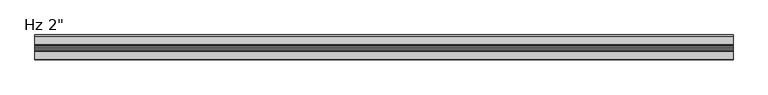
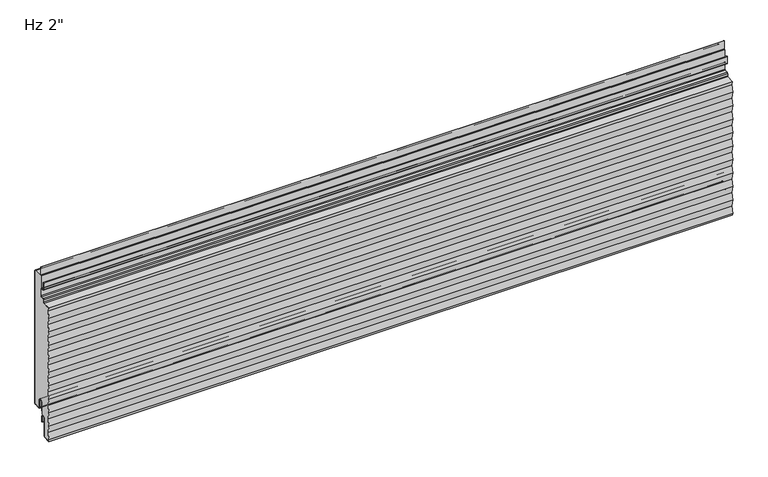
"""IFC4 building model written with IfcOpenShell, lengths in millimetres: plate geometry."""

from ifc_helpers import new_model, si_unit, point, frame, frame_2d, origin, place, context, project, spatial, polyline, circle_curve, ellipse_curve, trimmed, segment, composite_curve, outline, extrude, source, transform, mapped, element, save
from ifc_brep_helpers import plane_surface, cylinder_surface, revolved_surface, extruded_surface, advanced_brep


def plate_f94031e7(model_context):
    return source(origin(), model_context, "Body", "SolidModel", [
        extrude(outline(composite_curve([segment(polyline([(-22.8125, 259.7620957), (-22.8125, 303.00625), (-2.38125, 303.00625)]), True, "CONTINUOUS"), segment(trimmed(circle_curve(frame_2d((-2.38125, 301.625)), 1.38125), [point((-2.38125, 303.00625))], [point((-1.0, 301.625))], False, "CARTESIAN"), True, "CONTINUOUS"), segment(polyline([(-1.0, 301.625), (-1.0, 3.175)]), True, "CONTINUOUS"), segment(trimmed(circle_curve(frame_2d((-2.38125, 3.175)), 1.38125), [point((-1.0, 3.175))], [point((-2.38125, 1.79375))], False, "CARTESIAN"), True, "CONTINUOUS"), segment(polyline([(-2.38125, 1.79375), (-15.08125, 1.79375)]), True, "CONTINUOUS"), segment(trimmed(circle_curve(frame_2d((-15.08125, 3.175)), 1.38125), [point((-15.08125, 1.79375))], [point((-16.4625, 3.175))], False, "CARTESIAN"), True, "CONTINUOUS"), segment(polyline([(-16.4625, 3.175), (-16.4625, 19.05)]), True, "CONTINUOUS"), segment(trimmed(circle_curve(frame_2d((-21.43125, 19.05)), 4.96875), [point((-16.4625, 19.05))], [point((-26.4, 19.05))], True, "CARTESIAN"), True, "CONTINUOUS"), segment(polyline([(-26.4, 19.05), (-26.4, -6.9375), (-30.95625, -6.9375)]), True, "CONTINUOUS"), segment(trimmed(circle_curve(frame_2d((-30.95625, -11.90625)), 4.96875), [point((-30.95625, -6.9375))], [point((-35.925, -11.90625))], True, "CARTESIAN"), True, "CONTINUOUS"), segment(polyline([(-35.925, -11.90625), (-35.925, -50.0895546)]), True, "CONTINUOUS"), segment(trimmed(circle_curve(frame_2d((-37.30625, -50.0895546)), 1.38125), [point((-35.925, -50.0895546))], [point((-37.233961, -51.4689117))], False, "CARTESIAN"), True, "CONTINUOUS"), segment(polyline([(-37.233961, -51.4689117), (-50.4085109, -52.1593606), (-50.9378194, -48.8511825), (-48.4994194, -33.6111825), (-50.9378194, -18.3711825), (-48.4994194, -3.1311825), (-50.9378194, 12.1088175), (-48.4994194, 27.3488175), (-50.9378194, 42.5888175), (-48.4994194, 57.8288175), (-50.9378194, 73.0688175), (-48.4994194, 88.3088175), (-50.9378194, 103.5488175), (-48.4994194, 118.7888175), (-50.9378194, 134.0288175), (-48.4994194, 149.2688175), (-50.9378194, 164.5088175), (-48.4994194, 179.7488175), (-50.9378194, 194.9888175), (-48.4994194, 210.2288175), (-50.9357632, 225.4559664), (-48.4994194, 240.6831154), (-49.588775, 247.4915878), (-34.7895807, 248.2671807)]), True, "CONTINUOUS"), segment(trimmed(circle_curve(frame_2d((-34.925, 250.8511347)), 2.5875), [point((-34.7895807, 248.2671807))], [point((-32.3375, 250.8511347))], True, "CARTESIAN"), True, "CONTINUOUS"), segment(polyline([(-32.3375, 250.8511347), (-32.3375, 255.4967085)]), True, "CONTINUOUS"), segment(trimmed(circle_curve(frame_2d((-30.95625, 255.4967085)), 1.38125), [point((-32.3375, 255.4967085))], [point((-31.028539, 256.8760655))], False, "CARTESIAN"), True, "CONTINUOUS"), segment(polyline([(-31.028539, 256.8760655), (-25.2645807, 257.1781418)]), True, "CONTINUOUS"), segment(trimmed(circle_curve(frame_2d((-25.4, 259.7620957)), 2.5875), [point((-25.2645807, 257.1781418))], [point((-22.8125, 259.7620957))], True, "CARTESIAN"), True, "CONTINUOUS")], self_intersect=False)), frame((-730.0, 0.0, 0.0), z_axis=(1.0, 0.0, 0.0), x_axis=(0.0, 1.0, 0.0)), (0.0, 0.0, 1.0), 1460.0),
        extrude(outline(composite_curve([segment(polyline([(-25.4, 0.79375), (-26.4, 0.79375), (-26.4, 19.05)]), True, "CONTINUOUS"), segment(trimmed(circle_curve(frame_2d((-21.43125, 19.05)), 4.96875), [point((-26.4, 19.05))], [point((-16.4625, 19.05))], False, "CARTESIAN"), True, "CONTINUOUS"), segment(polyline([(-16.4625, 19.05), (-16.4625, 3.175)]), True, "CONTINUOUS"), segment(trimmed(circle_curve(frame_2d((-15.08125, 3.175)), 1.38125), [point((-16.4625, 3.175))], [point((-15.08125, 1.79375))], True, "CARTESIAN"), True, "CONTINUOUS"), segment(polyline([(-15.08125, 1.79375), (-2.38125, 1.79375)]), True, "CONTINUOUS"), segment(trimmed(circle_curve(frame_2d((-2.38125, 3.175)), 1.38125), [point((-2.38125, 1.79375))], [point((-1.0, 3.175))], True, "CARTESIAN"), True, "CONTINUOUS"), segment(polyline([(-1.0, 3.175), (-1.0, 301.625)]), True, "CONTINUOUS"), segment(trimmed(circle_curve(frame_2d((-2.38125, 301.625)), 1.38125), [point((-1.0, 301.625))], [point((-2.38125, 303.00625))], True, "CARTESIAN"), True, "CONTINUOUS"), segment(polyline([(-2.38125, 303.00625), (-19.446875, 303.00625)]), True, "CONTINUOUS"), segment(trimmed(circle_curve(frame_2d((-19.446875, 305.59375)), 2.5875), [point((-19.446875, 303.00625))], [point((-22.034375, 305.59375))], False, "CARTESIAN"), True, "CONTINUOUS"), segment(polyline([(-22.034375, 305.59375), (-22.034375, 323.05625), (-21.034375, 323.05625), (-21.034375, 305.59375)]), True, "CONTINUOUS"), segment(trimmed(circle_curve(frame_2d((-19.446875, 305.59375)), 1.5875), [point((-21.034375, 305.59375))], [point((-19.446875, 304.00625))], True, "CARTESIAN"), True, "CONTINUOUS"), segment(polyline([(-19.446875, 304.00625), (-2.38125, 304.00625)]), True, "CONTINUOUS"), segment(trimmed(circle_curve(frame_2d((-2.38125, 301.625)), 2.38125), [point((-2.38125, 304.00625))], [point((0.0, 301.625))], False, "CARTESIAN"), True, "CONTINUOUS"), segment(polyline([(0.0, 301.625), (0.0, 3.175)]), True, "CONTINUOUS"), segment(trimmed(circle_curve(frame_2d((-2.38125, 3.175)), 2.38125), [point((0.0, 3.175))], [point((-2.38125, 0.79375))], False, "CARTESIAN"), True, "CONTINUOUS"), segment(polyline([(-2.38125, 0.79375), (-15.08125, 0.79375)]), True, "CONTINUOUS"), segment(trimmed(circle_curve(frame_2d((-15.08125, 3.175)), 2.38125), [point((-15.08125, 0.79375))], [point((-17.4625, 3.175))], False, "CARTESIAN"), True, "CONTINUOUS"), segment(polyline([(-17.4625, 3.175), (-17.4625, 19.05)]), True, "CONTINUOUS"), segment(trimmed(circle_curve(frame_2d((-21.43125, 19.05)), 3.96875), [point((-17.4625, 19.05))], [point((-25.4, 19.05))], True, "CARTESIAN"), True, "CONTINUOUS"), segment(polyline([(-25.4, 19.05), (-25.4, 0.79375)]), True, "CONTINUOUS")], self_intersect=False)), frame((-730.0, 0.0, 0.0), z_axis=(1.0, 0.0, 0.0), x_axis=(0.0, 1.0, 0.0)), (0.0, 0.0, 1.0), 1460.0),
        advanced_brep(
        [(-730.0, -25.4, -23.2314549), (-730.0, -26.9875, -23.2314549), (-730.0, -26.9875, -11.9205174), (-730.0, -34.925, -11.9205174), (-730.0, -34.925, -50.1038221), (-730.0, -37.181625, -52.4818086), (-730.0, -51.3543553, -53.22457), (-730.0, -52.0509395, -48.8709186), (-730.0, -49.6125395, -33.6309186), (-730.0, -52.0509395, -18.3909186), (-730.0, -49.6125395, -3.1509186), (-730.0, -52.0509395, 12.0890814), (-730.0, -49.6125395, 27.3290814), (-730.0, -52.0509395, 42.5690814), (-730.0, -49.6125395, 57.8090814), (-730.0, -52.0509395, 73.0490814), (-730.0, -49.6125395, 88.2890814), (-730.0, -52.0509395, 103.5290814), (-730.0, -49.6125395, 118.7690814), (-730.0, -52.0509395, 134.0090814), (-730.0, -49.6125395, 149.2490814), (-730.0, -52.0509395, 164.4890814), (-730.0, -49.6125395, 179.7290814), (-730.0, -52.0509395, 194.9690814), (-730.0, -49.6125395, 210.2090814), (-730.0, -52.0347341, 225.3477976), (-730.0, -49.6125395, 240.4865139), (-730.0, -50.8827208, 248.4251473), (-730.0, -34.8419167, 249.2658103), (-730.0, -33.3375, 250.8511347), (-730.0, -33.3375, 255.4824411), (-730.0, -31.080875, 257.8604276), (-730.0, -25.3169167, 258.1625039), (-730.0, -23.8125, 259.7478283), (-730.0, -23.8125, 274.6232326), (-730.0, -25.4, 276.2107326), (-730.0, -29.5671875, 276.2107326), (-730.0, -31.9484375, 278.5919826), (-730.0, -31.9484375, 293.0836032), (-730.0, -30.1546875, 293.0836032), (-730.0, -30.1546875, 283.3544826), (-730.0, -30.9484375, 283.3544826), (-730.0, -30.9484375, 278.5919826), (-730.0, -29.5671875, 277.2107326), (-730.0, -25.4, 277.2107326), (-730.0, -22.8125, 274.6232326), (-730.0, -22.8125, 259.7478283), (-730.0, -25.2645807, 257.1638744), (-730.0, -31.028539, 256.8617981), (-730.0, -32.3375, 255.4824411), (-730.0, -32.3375, 250.8511347), (-730.0, -34.7895807, 248.2671807), (-730.0, -49.7195357, 247.4847349), (-730.0, -48.5998204, 240.4865139), (-730.0, -51.022015, 225.3477976), (-730.0, -48.5998204, 210.2090814), (-730.0, -51.0382204, 194.9690814), (-730.0, -48.5998204, 179.7290814), (-730.0, -51.0382204, 164.4890814), (-730.0, -48.5998204, 149.2490814), (-730.0, -51.0382204, 134.0090814), (-730.0, -48.5998204, 118.7690814), (-730.0, -51.0382204, 103.5290814), (-730.0, -48.5998204, 88.2890814), (-730.0, -51.0382204, 73.0490814), (-730.0, -48.5998204, 57.8090814), (-730.0, -51.0382204, 42.5690814), (-730.0, -48.5998204, 27.3290814), (-730.0, -51.0382204, 12.0890814), (-730.0, -48.5998204, -3.1509186), (-730.0, -51.0382204, -18.3909186), (-730.0, -48.5998204, -33.6309186), (-730.0, -51.0382204, -48.8709186), (-730.0, -50.5089447, -52.1788915), (-730.0, -37.233961, -51.4831791), (-730.0, -35.925, -50.1038221), (-730.0, -35.925, -11.9205174), (-730.0, -25.9875, -11.9205174), (-730.0, -26.19375, -13.5080174), (-730.0, -25.4, -13.5080174), (730.0, -25.4, -23.2314549), (730.0, -25.4, -13.5080174), (730.0, -26.19375, -13.5080174), (730.0, -25.9875, -11.9205174), (730.0, -35.925, -11.9205174), (730.0, -35.925, -50.1038221), (730.0, -37.233961, -51.4831791), (730.0, -50.5089447, -52.1788915), (730.0, -51.0382204, -48.8709186), (730.0, -48.5998204, -33.6309186), (730.0, -51.0382204, -18.3909186), (730.0, -48.5998204, -3.1509186), (730.0, -51.0382204, 12.0890814), (730.0, -48.5998204, 27.3290814), (730.0, -51.0382204, 42.5690814), (730.0, -48.5998204, 57.8090814), (730.0, -51.0382204, 73.0490814), (730.0, -48.5998204, 88.2890814), (730.0, -51.0382204, 103.5290814), (730.0, -48.5998204, 118.7690814), (730.0, -51.0382204, 134.0090814), (730.0, -48.5998204, 149.2490814), (730.0, -51.0382204, 164.4890814), (730.0, -48.5998204, 179.7290814), (730.0, -51.0382204, 194.9690814), (730.0, -48.5998204, 210.2090814), (730.0, -51.022015, 225.3477976), (730.0, -48.5998204, 240.4865139), (730.0, -49.7195357, 247.4847349), (730.0, -34.7895807, 248.2671807), (730.0, -32.3375, 250.8511347), (730.0, -32.3375, 255.4824411), (730.0, -31.028539, 256.8617981), (730.0, -25.2645807, 257.1638744), (730.0, -22.8125, 259.7478283), (730.0, -22.8125, 274.6232326), (730.0, -25.4, 277.2107326), (730.0, -29.5671875, 277.2107326), (730.0, -30.9484375, 278.5919826), (730.0, -30.9484375, 283.3544826), (730.0, -30.1546875, 283.3544826), (730.0, -30.1546875, 293.0836032), (730.0, -31.9484375, 293.0836032), (730.0, -31.9484375, 278.5919826), (730.0, -29.5671875, 276.2107326), (730.0, -25.4, 276.2107326), (730.0, -23.8125, 274.6232326), (730.0, -23.8125, 259.7478283), (730.0, -25.3169167, 258.1625039), (730.0, -31.080875, 257.8604276), (730.0, -33.3375, 255.4824411), (730.0, -33.3375, 250.8511347), (730.0, -34.8419167, 249.2658103), (730.0, -50.8827208, 248.4251473), (730.0, -49.6125395, 240.4865139), (730.0, -52.0347341, 225.3477976), (730.0, -49.6125395, 210.2090814), (730.0, -52.0509395, 194.9690814), (730.0, -49.6125395, 179.7290814), (730.0, -52.0509395, 164.4890814), (730.0, -49.6125395, 149.2490814), (730.0, -52.0509395, 134.0090814), (730.0, -49.6125395, 118.7690814), (730.0, -52.0509395, 103.5290814), (730.0, -49.6125395, 88.2890814), (730.0, -52.0509395, 73.0490814), (730.0, -49.6125395, 57.8090814), (730.0, -52.0509395, 42.5690814), (730.0, -49.6125395, 27.3290814), (730.0, -52.0509395, 12.0890814), (730.0, -49.6125395, -3.1509186), (730.0, -52.0509395, -18.3909186), (730.0, -49.6125395, -33.6309186), (730.0, -52.0509395, -48.8709186), (730.0, -51.3543553, -53.22457), (730.0, -37.181625, -52.4818086), (730.0, -34.925, -50.1038221), (730.0, -34.925, -11.9205174), (730.0, -26.9875, -11.9205174), (730.0, -26.9875, -23.2314549)],
        [
            (0, 1, circle_curve(frame((-730.0, -26.19375, -23.2314549), z_axis=(-1.0, 0.0, 0.0), x_axis=(0.0, 0.0, 1.0)), 0.79375)),
            (1, 2),
            (2, 3, circle_curve(frame((-730.0, -30.95625, -11.9205174), z_axis=(1.0, 0.0, 0.0), x_axis=(0.0, 0.0, 1.0)), 3.96875)),
            (3, 4),
            (4, 5, circle_curve(frame((-730.0, -37.30625, -50.1038221), z_axis=(-1.0, 0.0, 0.0), x_axis=(0.0, 0.0, 1.0)), 2.38125)),
            (5, 6),
            (6, 7),
            (7, 8),
            (8, 9),
            (9, 10),
            (10, 11),
            (11, 12),
            (12, 13),
            (13, 14),
            (14, 15),
            (15, 16),
            (16, 17),
            (17, 18),
            (18, 19),
            (19, 20),
            (20, 21),
            (21, 22),
            (22, 23),
            (23, 24),
            (24, 25),
            (25, 26),
            (26, 27),
            (27, 28),
            (28, 29, circle_curve(frame((-730.0, -34.925, 250.8511347), z_axis=(1.0, 0.0, 0.0), x_axis=(0.0, 0.0, 1.0)), 1.5875)),
            (29, 30),
            (30, 31, circle_curve(frame((-730.0, -30.95625, 255.4824411), z_axis=(-1.0, 0.0, 0.0), x_axis=(0.0, 0.0, 1.0)), 2.38125)),
            (31, 32),
            (32, 33, circle_curve(frame((-730.0, -25.4, 259.7478283), z_axis=(1.0, 0.0, 0.0), x_axis=(0.0, 0.0, 1.0)), 1.5875)),
            (33, 34),
            (34, 35, circle_curve(frame((-730.0, -25.4, 274.6232326), z_axis=(1.0, 0.0, 0.0), x_axis=(0.0, 0.0, 1.0)), 1.5875)),
            (35, 36),
            (36, 37, circle_curve(frame((-730.0, -29.5671875, 278.5919826), z_axis=(-1.0, 0.0, 0.0), x_axis=(0.0, 0.0, 1.0)), 2.38125)),
            (37, 38),
            (38, 39, ellipse_curve(frame((-730.0, -31.0515625, 293.0836032), z_axis=(-1.0, 0.0, 0.0), x_axis=(0.0, 1.0, 0.0)), 0.896875, 0.7852275)),
            (39, 40),
            (40, 41),
            (41, 42),
            (42, 43, circle_curve(frame((-730.0, -29.5671875, 278.5919826), z_axis=(1.0, 0.0, 0.0), x_axis=(0.0, 0.0, 1.0)), 1.38125)),
            (43, 44),
            (44, 45, circle_curve(frame((-730.0, -25.4, 274.6232326), z_axis=(-1.0, 0.0, 0.0), x_axis=(0.0, 0.0, 1.0)), 2.5875)),
            (45, 46),
            (46, 47, circle_curve(frame((-730.0, -25.4, 259.7478283), z_axis=(-1.0, 0.0, 0.0), x_axis=(0.0, 0.0, 1.0)), 2.5875)),
            (47, 48),
            (48, 49, circle_curve(frame((-730.0, -30.95625, 255.4824411), z_axis=(1.0, 0.0, 0.0), x_axis=(0.0, 0.0, 1.0)), 1.38125)),
            (49, 50),
            (50, 51, circle_curve(frame((-730.0, -34.925, 250.8511347), z_axis=(-1.0, 0.0, 0.0), x_axis=(0.0, 0.0, 1.0)), 2.5875)),
            (51, 52),
            (52, 53),
            (53, 54),
            (54, 55),
            (55, 56),
            (56, 57),
            (57, 58),
            (58, 59),
            (59, 60),
            (60, 61),
            (61, 62),
            (62, 63),
            (63, 64),
            (64, 65),
            (65, 66),
            (66, 67),
            (67, 68),
            (68, 69),
            (69, 70),
            (70, 71),
            (71, 72),
            (72, 73),
            (73, 74),
            (74, 75, circle_curve(frame((-730.0, -37.30625, -50.1038221), z_axis=(1.0, 0.0, 0.0), x_axis=(0.0, 0.0, 1.0)), 1.38125)),
            (75, 76),
            (76, 77, circle_curve(frame((-730.0, -30.95625, -11.9205174), z_axis=(-1.0, 0.0, 0.0), x_axis=(0.0, 0.0, 1.0)), 4.96875)),
            (77, 78),
            (78, 79),
            (79, 0),
            (80, 81),
            (81, 82),
            (82, 83),
            (83, 84, circle_curve(frame((730.0, -30.95625, -11.9205174), z_axis=(1.0, 0.0, 0.0), x_axis=(0.0, 0.0, 1.0)), 4.96875)),
            (84, 85),
            (85, 86, circle_curve(frame((730.0, -37.30625, -50.1038221), z_axis=(-1.0, 0.0, 0.0), x_axis=(0.0, 0.0, 1.0)), 1.38125)),
            (86, 87),
            (87, 88),
            (88, 89),
            (89, 90),
            (90, 91),
            (91, 92),
            (92, 93),
            (93, 94),
            (94, 95),
            (95, 96),
            (96, 97),
            (97, 98),
            (98, 99),
            (99, 100),
            (100, 101),
            (101, 102),
            (102, 103),
            (103, 104),
            (104, 105),
            (105, 106),
            (106, 107),
            (107, 108),
            (108, 109),
            (109, 110, circle_curve(frame((730.0, -34.925, 250.8511347), z_axis=(1.0, 0.0, 0.0), x_axis=(0.0, 0.0, 1.0)), 2.5875)),
            (110, 111),
            (111, 112, circle_curve(frame((730.0, -30.95625, 255.4824411), z_axis=(-1.0, 0.0, 0.0), x_axis=(0.0, 0.0, 1.0)), 1.38125)),
            (112, 113),
            (113, 114, circle_curve(frame((730.0, -25.4, 259.7478283), z_axis=(1.0, 0.0, 0.0), x_axis=(0.0, 0.0, 1.0)), 2.5875)),
            (114, 115),
            (115, 116, circle_curve(frame((730.0, -25.4, 274.6232326), z_axis=(1.0, 0.0, 0.0), x_axis=(0.0, 0.0, 1.0)), 2.5875)),
            (116, 117),
            (117, 118, circle_curve(frame((730.0, -29.5671875, 278.5919826), z_axis=(-1.0, 0.0, 0.0), x_axis=(0.0, 0.0, 1.0)), 1.38125)),
            (118, 119),
            (119, 120),
            (120, 121),
            (121, 122, ellipse_curve(frame((730.0, -31.0515625, 293.0836032), z_axis=(1.0, 0.0, 0.0), x_axis=(0.0, 1.0, 0.0)), 0.896875, 0.7852275)),
            (122, 123),
            (123, 124, circle_curve(frame((730.0, -29.5671875, 278.5919826), z_axis=(1.0, 0.0, 0.0), x_axis=(0.0, 0.0, 1.0)), 2.38125)),
            (124, 125),
            (125, 126, circle_curve(frame((730.0, -25.4, 274.6232326), z_axis=(-1.0, 0.0, 0.0), x_axis=(0.0, 0.0, 1.0)), 1.5875)),
            (126, 127),
            (127, 128, circle_curve(frame((730.0, -25.4, 259.7478283), z_axis=(-1.0, 0.0, 0.0), x_axis=(0.0, 0.0, 1.0)), 1.5875)),
            (128, 129),
            (129, 130, circle_curve(frame((730.0, -30.95625, 255.4824411), z_axis=(1.0, 0.0, 0.0), x_axis=(0.0, 0.0, 1.0)), 2.38125)),
            (130, 131),
            (131, 132, circle_curve(frame((730.0, -34.925, 250.8511347), z_axis=(-1.0, 0.0, 0.0), x_axis=(0.0, 0.0, 1.0)), 1.5875)),
            (132, 133),
            (133, 134),
            (134, 135),
            (135, 136),
            (136, 137),
            (137, 138),
            (138, 139),
            (139, 140),
            (140, 141),
            (141, 142),
            (142, 143),
            (143, 144),
            (144, 145),
            (145, 146),
            (146, 147),
            (147, 148),
            (148, 149),
            (149, 150),
            (150, 151),
            (151, 152),
            (152, 153),
            (153, 154),
            (154, 155),
            (155, 156, circle_curve(frame((730.0, -37.30625, -50.1038221), z_axis=(1.0, 0.0, 0.0), x_axis=(0.0, 0.0, 1.0)), 2.38125)),
            (156, 157),
            (157, 158, circle_curve(frame((730.0, -30.95625, -11.9205174), z_axis=(-1.0, 0.0, 0.0), x_axis=(0.0, 0.0, 1.0)), 3.96875)),
            (158, 159),
            (159, 80, circle_curve(frame((730.0, -26.19375, -23.2314549), z_axis=(1.0, 0.0, 0.0), x_axis=(0.0, 0.0, 1.0)), 0.79375)),
            (58, 102),
            (101, 59),
            (100, 60),
            (99, 61),
            (73, 87),
            (86, 74),
            (85, 75),
            (84, 76),
            (83, 77),
            (78, 82),
            (81, 79),
            (40, 120),
            (119, 41),
            (39, 121),
            (38, 122),
            (27, 133),
            (132, 28),
            (51, 109),
            (108, 52),
            (24, 136),
            (135, 25),
            (54, 106),
            (105, 55),
            (104, 56),
            (103, 57),
            (21, 139),
            (138, 22),
            (137, 23),
            (26, 134),
            (107, 53),
            (20, 140),
            (18, 142),
            (141, 19),
            (16, 144),
            (143, 17),
            (14, 146),
            (145, 15),
            (12, 148),
            (147, 13),
            (10, 150),
            (149, 11),
            (8, 152),
            (151, 9),
            (6, 154),
            (153, 7),
            (71, 89),
            (88, 72),
            (69, 91),
            (90, 70),
            (67, 93),
            (92, 68),
            (65, 95),
            (94, 66),
            (63, 97),
            (96, 64),
            (98, 62),
            (50, 110),
            (48, 112),
            (111, 49),
            (46, 114),
            (113, 47),
            (42, 118),
            (117, 43),
            (44, 116),
            (115, 45),
            (37, 123),
            (35, 125),
            (124, 36),
            (33, 127),
            (126, 34),
            (31, 129),
            (128, 32),
            (29, 131),
            (130, 30),
            (5, 155),
            (3, 157),
            (156, 4),
            (1, 159),
            (158, 2),
            (80, 0),
        ],
        [
            plane_surface(frame((-730.0, -50.8, 152.4), z_axis=(-1.0, 0.0, 0.0), x_axis=(0.0, -1.0, 0.0))),
            plane_surface(frame((730.0, -50.8, 152.4), z_axis=(1.0, 0.0, 0.0), x_axis=(0.0, -1.0, 0.0))),
            plane_surface(frame((-730.0, -48.5998204, 149.2490814), z_axis=(0.0, 0.9874406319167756, 0.15799050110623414), x_axis=(1.0, 0.0, 0.0))),
            plane_surface(frame((-730.0, -51.0382204, 134.0090814), z_axis=(0.0, 0.987440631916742, -0.15799050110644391), x_axis=(1.0, 0.0, 0.0))),
            plane_surface(frame((-730.0, -48.5998204, 118.7690814), z_axis=(0.0, 0.987440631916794, 0.1579905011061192), x_axis=(1.0, 0.0, 0.0))),
            plane_surface(frame((-730.0, -37.233961, -51.4831791), z_axis=(0.0, -0.052335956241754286, 0.9986295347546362), x_axis=(1.0, 0.0, 0.0))),
            revolved_surface(polyline([(730.0, -37.30625, -48.7225721), (-730.0, -37.30625, -48.7225721)]), (-730.0, -37.30625, -50.1038221), (1.0, 0.0, 0.0)),
            plane_surface(frame((-730.0, -35.925, -11.9205174), z_axis=(0.0, -1.0, 0.0), x_axis=(1.0, 0.0, 0.0))),
            cylinder_surface(frame((-730.0, -30.95625, -11.9205174), z_axis=(-1.0, 0.0, 0.0), x_axis=(0.0, 0.0, 1.0)), 4.96875),
            plane_surface(frame((-730.0, -25.4, -13.5080174), z_axis=(0.0, 0.0, 1.0), x_axis=(1.0, 0.0, 0.0))),
            plane_surface(frame((-730.0, -26.19375, -13.5080174), z_axis=(0.0, 0.9916655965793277, -0.12883844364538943), x_axis=(1.0, 0.0, 0.0))),
            plane_surface(frame((-730.0, -30.9484375, 283.3544826), z_axis=(0.0, 0.0, -1.0), x_axis=(1.0, 0.0, 0.0))),
            plane_surface(frame((-730.0, -30.1546875, 283.3544826), z_axis=(0.0, 1.0, 0.0), x_axis=(1.0, 0.0, 0.0))),
            extruded_surface(trimmed(ellipse_curve(frame((-730.0, -31.0515625, 293.0836032), z_axis=(1.0, 0.0, 0.0), x_axis=(0.0, 1.0, 0.0)), 0.896875, 0.7852275), [point((-730.0, -30.1546875, 293.0836032))], [point((-730.0, -31.9484375, 293.0836032))], True, "CARTESIAN"), (1460.0, 0.0, 0.0), 1460.0),
            plane_surface(frame((-730.0, -34.8419167, 249.2658103), z_axis=(0.0, -0.052335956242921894, 0.998629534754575), x_axis=(1.0, 0.0, 0.0))),
            plane_surface(frame((-730.0, -49.7195357, 247.4847349), z_axis=(0.0, 0.05233595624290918, -0.9986295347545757), x_axis=(1.0, 0.0, 0.0))),
            plane_surface(frame((-730.0, -52.0347341, 225.3477976), z_axis=(0.0, -0.9874406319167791, -0.15799050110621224), x_axis=(1.0, 0.0, 0.0))),
            plane_surface(frame((-730.0, -48.5998204, 210.2090814), z_axis=(0.0, 0.9874406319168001, 0.15799050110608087), x_axis=(1.0, 0.0, 0.0))),
            plane_surface(frame((-730.0, -51.0382204, 194.9690814), z_axis=(0.0, 0.9874406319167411, -0.15799050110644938), x_axis=(1.0, 0.0, 0.0))),
            plane_surface(frame((-730.0, -48.5998204, 179.7290814), z_axis=(0.0, 0.987440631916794, 0.1579905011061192), x_axis=(1.0, 0.0, 0.0))),
            plane_surface(frame((-730.0, -51.0382204, 164.4890814), z_axis=(0.0, 0.987440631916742, -0.15799050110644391), x_axis=(1.0, 0.0, 0.0))),
            plane_surface(frame((-730.0, -49.6125395, 179.7290814), z_axis=(0.0, -0.9874406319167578, 0.15799050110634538), x_axis=(1.0, 0.0, 0.0))),
            plane_surface(frame((-730.0, -52.0509395, 194.9690814), z_axis=(0.0, -0.9874406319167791, -0.15799050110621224), x_axis=(1.0, 0.0, 0.0))),
            plane_surface(frame((-730.0, -49.6125395, 210.2090814), z_axis=(0.0, -0.9874406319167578, 0.15799050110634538), x_axis=(1.0, 0.0, 0.0))),
            plane_surface(frame((-730.0, -50.8827208, 248.4251473), z_axis=(0.0, -0.9874406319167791, -0.15799050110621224), x_axis=(1.0, 0.0, 0.0))),
            plane_surface(frame((-730.0, -48.5998204, 240.4865139), z_axis=(0.0, 0.9874406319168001, 0.15799050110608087), x_axis=(1.0, 0.0, 0.0))),
            plane_surface(frame((-730.0, -51.022015, 225.3477976), z_axis=(0.0, 0.9874406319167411, -0.15799050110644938), x_axis=(1.0, 0.0, 0.0))),
            plane_surface(frame((-730.0, -49.6125395, 240.4865139), z_axis=(0.0, -0.9874406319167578, 0.15799050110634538), x_axis=(1.0, 0.0, 0.0))),
            plane_surface(frame((-730.0, -52.0509395, 164.4890814), z_axis=(0.0, -0.9874406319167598, -0.15799050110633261), x_axis=(1.0, 0.0, 0.0))),
            plane_surface(frame((-730.0, -52.0509395, 134.0090814), z_axis=(0.0, -0.9874406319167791, -0.15799050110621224), x_axis=(1.0, 0.0, 0.0))),
            plane_surface(frame((-730.0, -49.6125395, 149.2490814), z_axis=(0.0, -0.9874406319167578, 0.15799050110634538), x_axis=(1.0, 0.0, 0.0))),
            plane_surface(frame((-730.0, -52.0509395, 103.5290814), z_axis=(0.0, -0.9874406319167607, -0.15799050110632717), x_axis=(1.0, 0.0, 0.0))),
            plane_surface(frame((-730.0, -52.0509395, 73.0490814), z_axis=(0.0, -0.9874406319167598, -0.15799050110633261), x_axis=(1.0, 0.0, 0.0))),
            plane_surface(frame((-730.0, -49.6125395, 88.2890814), z_axis=(0.0, -0.9874406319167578, 0.15799050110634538), x_axis=(1.0, 0.0, 0.0))),
            plane_surface(frame((-730.0, -49.6125395, 118.7690814), z_axis=(0.0, -0.9874406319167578, 0.15799050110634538), x_axis=(1.0, 0.0, 0.0))),
            plane_surface(frame((-730.0, -52.0509395, 42.5690814), z_axis=(0.0, -0.9874406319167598, -0.15799050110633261), x_axis=(1.0, 0.0, 0.0))),
            plane_surface(frame((-730.0, -52.0509395, 12.0890814), z_axis=(0.0, -0.9874406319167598, -0.15799050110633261), x_axis=(1.0, 0.0, 0.0))),
            plane_surface(frame((-730.0, -49.6125395, 27.3290814), z_axis=(0.0, -0.9874406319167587, 0.15799050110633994), x_axis=(1.0, 0.0, 0.0))),
            plane_surface(frame((-730.0, -49.6125395, 57.8090814), z_axis=(0.0, -0.9874406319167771, 0.157990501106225), x_axis=(1.0, 0.0, 0.0))),
            plane_surface(frame((-730.0, -52.0509395, -18.3909186), z_axis=(0.0, -0.9874406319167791, -0.15799050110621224), x_axis=(1.0, 0.0, 0.0))),
            plane_surface(frame((-730.0, -52.0509395, -48.8709186), z_axis=(0.0, -0.9874406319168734, -0.15799050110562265), x_axis=(1.0, 0.0, 0.0))),
            plane_surface(frame((-730.0, -49.6125395, -33.6309186), z_axis=(0.0, -0.9874406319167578, 0.15799050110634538), x_axis=(1.0, 0.0, 0.0))),
            plane_surface(frame((-730.0, -49.6125395, -3.1509186), z_axis=(0.0, -0.9874406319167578, 0.15799050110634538), x_axis=(1.0, 0.0, 0.0))),
            plane_surface(frame((-730.0, -51.0382204, -48.8709186), z_axis=(0.0, 0.9874406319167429, -0.15799050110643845), x_axis=(1.0, 0.0, 0.0))),
            plane_surface(frame((-730.0, -51.0382204, -18.3909186), z_axis=(0.0, 0.987440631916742, -0.15799050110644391), x_axis=(1.0, 0.0, 0.0))),
            plane_surface(frame((-730.0, -48.5998204, -33.6309186), z_axis=(0.0, 0.987440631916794, 0.1579905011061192), x_axis=(1.0, 0.0, 0.0))),
            plane_surface(frame((-730.0, -50.5089447, -52.1788915), z_axis=(0.0, 0.987440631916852, 0.1579905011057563), x_axis=(1.0, 0.0, 0.0))),
            plane_surface(frame((-730.0, -51.0382204, 12.0890814), z_axis=(0.0, 0.987440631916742, -0.15799050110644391), x_axis=(1.0, 0.0, 0.0))),
            plane_surface(frame((-730.0, -51.0382204, 42.5690814), z_axis=(0.0, 0.9874406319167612, -0.1579905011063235), x_axis=(1.0, 0.0, 0.0))),
            plane_surface(frame((-730.0, -48.5998204, 27.3290814), z_axis=(0.0, 0.9874406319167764, 0.15799050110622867), x_axis=(1.0, 0.0, 0.0))),
            plane_surface(frame((-730.0, -48.5998204, -3.1509186), z_axis=(0.0, 0.9874406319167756, 0.15799050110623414), x_axis=(1.0, 0.0, 0.0))),
            plane_surface(frame((-730.0, -51.0382204, 73.0490814), z_axis=(0.0, 0.9874406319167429, -0.15799050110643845), x_axis=(1.0, 0.0, 0.0))),
            plane_surface(frame((-730.0, -51.0382204, 103.5290814), z_axis=(0.0, 0.987440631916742, -0.15799050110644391), x_axis=(1.0, 0.0, 0.0))),
            plane_surface(frame((-730.0, -48.5998204, 88.2890814), z_axis=(0.0, 0.9874406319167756, 0.15799050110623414), x_axis=(1.0, 0.0, 0.0))),
            plane_surface(frame((-730.0, -48.5998204, 57.8090814), z_axis=(0.0, 0.9874406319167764, 0.15799050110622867), x_axis=(1.0, 0.0, 0.0))),
            cylinder_surface(frame((-730.0, -34.925, 250.8511347), z_axis=(-1.0, 0.0, 0.0), x_axis=(0.0, 0.0, 1.0)), 2.5875),
            revolved_surface(polyline([(730.0, -30.95625, 256.8636911), (-730.0, -30.95625, 256.8636911)]), (-730.0, -30.95625, 255.4824411), (1.0, 0.0, 0.0)),
            cylinder_surface(frame((-730.0, -25.4, 259.7478283), z_axis=(-1.0, 0.0, 0.0), x_axis=(0.0, 0.0, 1.0)), 2.5875),
            plane_surface(frame((-730.0, -31.028539, 256.8617981), z_axis=(0.0, 0.0523359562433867, -0.9986295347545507), x_axis=(1.0, 0.0, 0.0))),
            plane_surface(frame((-730.0, -32.3375, 250.8511347), z_axis=(0.0, 1.0, 0.0), x_axis=(1.0, 0.0, 0.0))),
            revolved_surface(polyline([(730.0, -29.5671875, 279.9732326), (-730.0, -29.5671875, 279.9732326)]), (-730.0, -29.5671875, 278.5919826), (1.0, 0.0, 0.0)),
            cylinder_surface(frame((-730.0, -25.4, 274.6232326), z_axis=(-1.0, 0.0, 0.0), x_axis=(0.0, 0.0, 1.0)), 2.5875),
            plane_surface(frame((-730.0, -25.4, 277.2107326), z_axis=(0.0, 0.0, 1.0), x_axis=(1.0, 0.0, 0.0))),
            plane_surface(frame((-730.0, -30.9484375, 278.5919826), z_axis=(0.0, 1.0, 0.0), x_axis=(1.0, 0.0, 0.0))),
            plane_surface(frame((-730.0, -31.9484375, 293.0836032), z_axis=(0.0, -1.0, 0.0), x_axis=(1.0, 0.0, 0.0))),
            plane_surface(frame((-730.0, -29.5671875, 276.2107326), z_axis=(0.0, 0.0, -1.0), x_axis=(1.0, 0.0, 0.0))),
            cylinder_surface(frame((-730.0, -29.5671875, 278.5919826), z_axis=(-1.0, 0.0, 0.0), x_axis=(0.0, 0.0, 1.0)), 2.38125),
            plane_surface(frame((-730.0, -22.8125, 259.7478283), z_axis=(0.0, 1.0, 0.0), x_axis=(1.0, 0.0, 0.0))),
            plane_surface(frame((-730.0, -23.8125, 274.6232326), z_axis=(0.0, -1.0, 0.0), x_axis=(1.0, 0.0, 0.0))),
            plane_surface(frame((-730.0, -25.3169167, 258.1625039), z_axis=(0.0, -0.052335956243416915, 0.9986295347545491), x_axis=(1.0, 0.0, 0.0))),
            revolved_surface(polyline([(730.0, -25.4, 261.33532829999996), (-730.0, -25.4, 261.33532829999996)]), (-730.0, -25.4, 259.7478283), (1.0, 0.0, 0.0)),
            revolved_surface(polyline([(730.0, -25.4, 276.2107326), (-730.0, -25.4, 276.2107326)]), (-730.0, -25.4, 274.6232326), (1.0, 0.0, 0.0)),
            plane_surface(frame((-730.0, -33.3375, 255.4824411), z_axis=(0.0, -1.0, 0.0), x_axis=(1.0, 0.0, 0.0))),
            revolved_surface(polyline([(730.0, -34.925, 252.4386347), (-730.0, -34.925, 252.4386347)]), (-730.0, -34.925, 250.8511347), (1.0, 0.0, 0.0)),
            cylinder_surface(frame((-730.0, -30.95625, 255.4824411), z_axis=(-1.0, 0.0, 0.0), x_axis=(0.0, 0.0, 1.0)), 2.38125),
            plane_surface(frame((-730.0, -51.3543553, -53.22457), z_axis=(0.0, 0.052335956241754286, -0.9986295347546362), x_axis=(1.0, 0.0, 0.0))),
            plane_surface(frame((-730.0, -34.925, -50.1038221), z_axis=(0.0, 1.0, 0.0), x_axis=(1.0, 0.0, 0.0))),
            plane_surface(frame((-730.0, -26.9875, -11.9205174), z_axis=(0.0, -1.0, 0.0), x_axis=(1.0, 0.0, 0.0))),
            revolved_surface(polyline([(730.0, -30.95625, -7.9517674), (-730.0, -30.95625, -7.9517674)]), (-730.0, -30.95625, -11.9205174), (1.0, 0.0, 0.0)),
            cylinder_surface(frame((-730.0, -37.30625, -50.1038221), z_axis=(-1.0, 0.0, 0.0), x_axis=(0.0, 0.0, 1.0)), 2.38125),
            plane_surface(frame((-730.0, -25.4, -23.2314549), z_axis=(0.0, 1.0, 0.0), x_axis=(1.0, 0.0, 0.0))),
            cylinder_surface(frame((-730.0, -26.19375, -23.2314549), z_axis=(-1.0, 0.0, 0.0), x_axis=(0.0, 0.0, 1.0)), 0.79375),
        ],
        [
            (0, [[1, 2, 3, 4, 5, 6, 7, 8, 9, 10, 11, 12, 13, 14, 15, 16, 17, 18, 19, 20, 21, 22, 23, 24, 25, 26, 27, 28, 29, 30, 31, 32, 33, 34, 35, 36, 37, 38, 39, 40, 41, 42, 43, 44, 45, 46, 47, 48, 49, 50, 51, 52, 53, 54, 55, 56, 57, 58, 59, 60, 61, 62, 63, 64, 65, 66, 67, 68, 69, 70, 71, 72, 73, 74, 75, 76, 77, 78, 79, 80]]),
            (1, [[81, 82, 83, 84, 85, 86, 87, 88, 89, 90, 91, 92, 93, 94, 95, 96, 97, 98, 99, 100, 101, 102, 103, 104, 105, 106, 107, 108, 109, 110, 111, 112, 113, 114, 115, 116, 117, 118, 119, 120, 121, 122, 123, 124, 125, 126, 127, 128, 129, 130, 131, 132, 133, 134, 135, 136, 137, 138, 139, 140, 141, 142, 143, 144, 145, 146, 147, 148, 149, 150, 151, 152, 153, 154, 155, 156, 157, 158, 159, 160]]),
            (2, [[161, -102, 162, -59]]),
            (3, [[-162, -101, 163, -60]]),
            (4, [[-163, -100, 164, -61]]),
            (5, [[165, -87, 166, -74]]),
            (6, [[-166, -86, 167, -75]]),
            (7, [[-167, -85, 168, -76]]),
            (8, [[-168, -84, 169, -77]]),
            (9, [[170, -82, 171, -79]]),
            (10, [[-169, -83, -170, -78]]),
            (11, [[172, -120, 173, -41]]),
            (12, [[174, -121, -172, -40]]),
            (13, [[175, -122, -174, -39]]),
            (14, [[176, -133, 177, -28]]),
            (15, [[178, -109, 179, -52]]),
            (16, [[180, -136, 181, -25]]),
            (17, [[182, -106, 183, -55]]),
            (18, [[-183, -105, 184, -56]]),
            (19, [[-184, -104, 185, -57]]),
            (20, [[-185, -103, -161, -58]]),
            (21, [[186, -139, 187, -22]]),
            (22, [[-187, -138, 188, -23]]),
            (23, [[-188, -137, -180, -24]]),
            (24, [[189, -134, -176, -27]]),
            (25, [[-179, -108, 190, -53]]),
            (26, [[-190, -107, -182, -54]]),
            (27, [[-181, -135, -189, -26]]),
            (28, [[191, -140, -186, -21]]),
            (29, [[192, -142, 193, -19]]),
            (30, [[-193, -141, -191, -20]]),
            (31, [[194, -144, 195, -17]]),
            (32, [[196, -146, 197, -15]]),
            (33, [[-197, -145, -194, -16]]),
            (34, [[-195, -143, -192, -18]]),
            (35, [[198, -148, 199, -13]]),
            (36, [[200, -150, 201, -11]]),
            (37, [[-201, -149, -198, -12]]),
            (38, [[-199, -147, -196, -14]]),
            (39, [[202, -152, 203, -9]]),
            (40, [[204, -154, 205, -7]]),
            (41, [[-205, -153, -202, -8]]),
            (42, [[-203, -151, -200, -10]]),
            (43, [[206, -89, 207, -72]]),
            (44, [[208, -91, 209, -70]]),
            (45, [[-209, -90, -206, -71]]),
            (46, [[-207, -88, -165, -73]]),
            (47, [[210, -93, 211, -68]]),
            (48, [[212, -95, 213, -66]]),
            (49, [[-213, -94, -210, -67]]),
            (50, [[-211, -92, -208, -69]]),
            (51, [[214, -97, 215, -64]]),
            (52, [[-164, -99, 216, -62]]),
            (53, [[-216, -98, -214, -63]]),
            (54, [[-215, -96, -212, -65]]),
            (55, [[217, -110, -178, -51]]),
            (56, [[218, -112, 219, -49]]),
            (57, [[220, -114, 221, -47]]),
            (58, [[-221, -113, -218, -48]]),
            (59, [[-219, -111, -217, -50]]),
            (60, [[222, -118, 223, -43]]),
            (61, [[224, -116, 225, -45]]),
            (62, [[-223, -117, -224, -44]]),
            (63, [[-173, -119, -222, -42]]),
            (64, [[226, -123, -175, -38]]),
            (65, [[227, -125, 228, -36]]),
            (66, [[-228, -124, -226, -37]]),
            (67, [[-225, -115, -220, -46]]),
            (68, [[229, -127, 230, -34]]),
            (69, [[231, -129, 232, -32]]),
            (70, [[-232, -128, -229, -33]]),
            (71, [[-230, -126, -227, -35]]),
            (72, [[233, -131, 234, -30]]),
            (73, [[-177, -132, -233, -29]]),
            (74, [[-234, -130, -231, -31]]),
            (75, [[235, -155, -204, -6]]),
            (76, [[236, -157, 237, -4]]),
            (77, [[238, -159, 239, -2]]),
            (78, [[-239, -158, -236, -3]]),
            (79, [[-237, -156, -235, -5]]),
            (80, [[-171, -81, 240, -80]]),
            (81, [[-240, -160, -238, -1]]),
        ],
    ),
    ])


if __name__ == "__main__":
    model = new_model("IFC4")
    model_context = context("Model", 3, world=origin())
    ifc_project = project(units=[si_unit("LENGTHUNIT", "METRE", prefix="MILLI")], contexts=[model_context])
    site = spatial("IfcSite", under=ifc_project)
    building = spatial("IfcBuilding", under=site)
    placement = place(None, origin())
    plate_shape = plate_f94031e7(model_context)
    element("IfcPlate", 1, ObjectType="KIP-12-DWTR-R19-CP-Hz-S : Hz 2\"", at=placement, inside=building, context=model_context, shape_type="MappedRepresentation", body=[
        mapped(plate_shape, transform((0.0, 0.0, 0.0), x_axis=(1.0, 0.0, 0.0), y_axis=(0.0, 1.0, 0.0), z_axis=(0.0, 0.0, 1.0))),
    ])
    save(model, "model.ifc")
